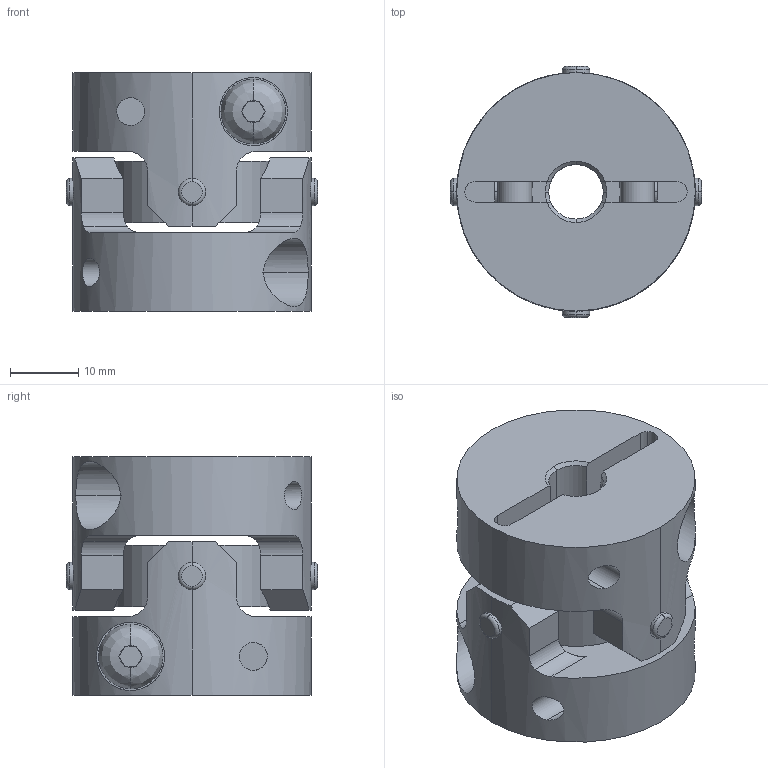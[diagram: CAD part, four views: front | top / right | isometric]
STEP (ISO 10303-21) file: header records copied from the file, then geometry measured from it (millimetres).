
FILE_DESCRIPTION((''),'2;1');
FILE_NAME('UA-35C-8×8.stp','2013-05-22T08:44:49',(''),(''),'AutoCAD STEP 2000i','AutoCAD 2000i',', , ');
FILE_SCHEMA(('CONFIG_CONTROL_DESIGN'));
Length unit declared in the file: millimetre
Products named in the file (6): UA-35C-8×8; 忣兜1; UA-3502-D08-1; BTN-M5; UA-3502-D08; UA35-SEN
Assembly tree (6 placements, depth 3):
  UA-35C-8×8
    忣兜1
    UA-3502-D08-1
      BTN-M5
    UA-3502-D08
      BTN-M5
    UA35-SEN
Bounding box: 36.83 x 36.83 x 35 mm (x, y, z)
Volume: 23353.8 mm3; surface area: 12049.8 mm2
Topology: 1 solids, 1 shells, 250 faces, 646 edges, 408 vertices
Faces by surface type: plane 122, cylinder 96, cone 16, bspline 8, torus 8
Entity records: 9647 total; most frequent: CARTESIAN_POINT 3391, ORIENTED_EDGE 1292, DIRECTION 1288, EDGE_CURVE 646, AXIS2_PLACEMENT_3D 497, VERTEX_POINT 408, VECTOR 294, LINE 294
